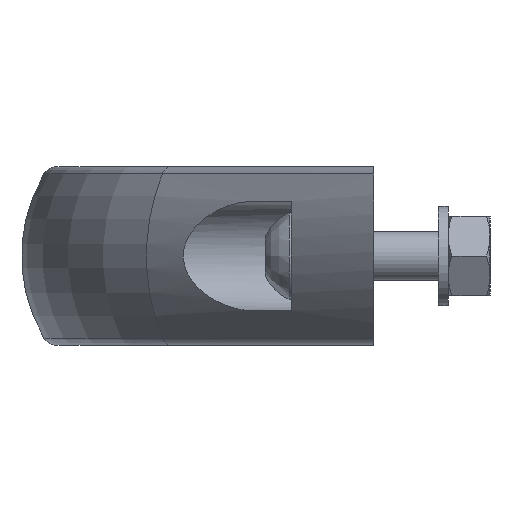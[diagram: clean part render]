
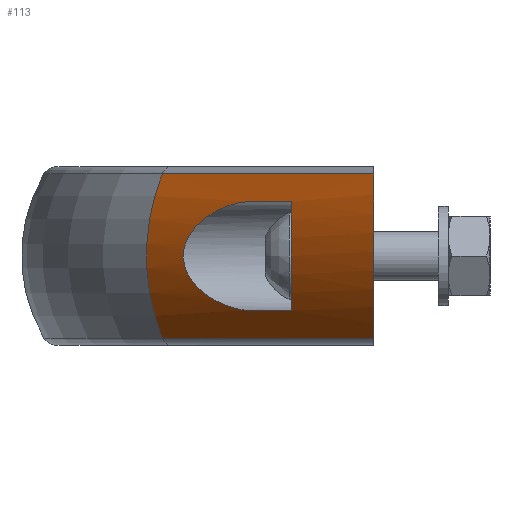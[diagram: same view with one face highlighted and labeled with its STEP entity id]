
A CAD part, left-side view. The second image highlights one B-rep face of the part: STEP entity #113.
In plain terms, the highlighted cylindrical face has radius 32.5 mm (diameter 65 mm), a partial arc.
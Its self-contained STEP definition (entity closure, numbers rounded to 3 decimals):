
#113 = ADVANCED_FACE( '', ( #289, #290 ), #291, .T. );
#289 = FACE_OUTER_BOUND( '', #607, .T. );
#290 = FACE_BOUND( '', #608, .T. );
#291 = CYLINDRICAL_SURFACE( '', #609, 32.5 );
#607 = EDGE_LOOP( '', ( #1100, #1101, #1102, #1103 ) );
#608 = EDGE_LOOP( '', ( #1104, #1105, #1106, #1107 ) );
#609 = AXIS2_PLACEMENT_3D( '', #1108, #1109, #1110 );
#1100 = ORIENTED_EDGE( '', *, *, #1810, .F. );
#1101 = ORIENTED_EDGE( '', *, *, #1811, .T. );
#1102 = ORIENTED_EDGE( '', *, *, #1812, .F. );
#1103 = ORIENTED_EDGE( '', *, *, #1807, .F. );
#1104 = ORIENTED_EDGE( '', *, *, #1813, .F. );
#1105 = ORIENTED_EDGE( '', *, *, #1814, .F. );
#1106 = ORIENTED_EDGE( '', *, *, #1815, .F. );
#1107 = ORIENTED_EDGE( '', *, *, #1816, .F. );
#1108 = CARTESIAN_POINT( '', ( -229.301, -47.88, 0. ) );
#1109 = DIRECTION( '', ( -0.707, -0.707, 0. ) );
#1110 = DIRECTION( '', ( -0.707, 0.707, 0. ) );
#1807 = EDGE_CURVE( '', #2139, #2142, #2143, .T. );
#1810 = EDGE_CURVE( '', #2147, #2139, #2148, .T. );
#1811 = EDGE_CURVE( '', #2147, #2149, #2150, .T. );
#1812 = EDGE_CURVE( '', #2142, #2149, #2151, .T. );
#1813 = EDGE_CURVE( '', #2152, #2153, #2154, .F. );
#1814 = EDGE_CURVE( '', #2155, #2152, #2156, .T. );
#1815 = EDGE_CURVE( '', #2157, #2155, #2158, .T. );
#1816 = EDGE_CURVE( '', #2153, #2157, #2159, .T. );
#2139 = VERTEX_POINT( '', #2860 );
#2142 = VERTEX_POINT( '', #2863 );
#2143 = LINE( '', #2864, #2865 );
#2147 = VERTEX_POINT( '', #2870 );
#2148 = ELLIPSE( '', #2871, 45.962, 32.5 );
#2149 = VERTEX_POINT( '', #2872 );
#2150 = LINE( '', #2873, #2874 );
#2151 = CIRCLE( '', #2875, 32.5 );
#2152 = VERTEX_POINT( '', #2876 );
#2153 = VERTEX_POINT( '', #2877 );
#2154 = LINE( '', #2878, #2879 );
#2155 = VERTEX_POINT( '', #2880 );
#2156 = B_SPLINE_CURVE_WITH_KNOTS( '', 3, ( #2881, #2882, #2883, #2884, #2885, #2886, #2887, #2888, #2889, #2890, #2891, #2892, #2893, #2894, #2895, #2896, #2897, #2898, #2899, #2900, #2901, #2902, #2903, #2904, #2905, #2906, #2907, #2908, #2909, #2910, #2911, #2912, #2913, #2914, #2915, #2916, #2917, #2918, #2919, #2920, #2921, #2922, #2923, #2924, #2925, #2926, #2927, #2928, #2929, #2930, #2931, #2932, #2933, #2934 ), .UNSPECIFIED., .F., .F., ( 4, 2, 2, 2, 2, 2, 2, 2, 2, 2, 2, 2, 2, 2, 2, 2, 2, 2, 2, 2, 2, 2, 2, 2, 2, 2, 4 ), ( 0.017, 0.019, 0.022, 0.025, 0.028, 0.031, 0.032, 0.034, 0.034, 0.035, 0.036, 0.037, 0.038, 0.039, 0.04, 0.041, 0.041, 0.042, 0.043, 0.045, 0.048, 0.05, 0.053, 0.056, 0.057, 0.059, 0.062 ), .UNSPECIFIED. );
#2157 = VERTEX_POINT( '', #2935 );
#2158 = LINE( '', #2936, #2937 );
#2159 = ELLIPSE( '', #2938, 45.962, 32.5 );
#2860 = CARTESIAN_POINT( '', ( -220.997, 0., -16.525 ) );
#2863 = CARTESIAN_POINT( '', ( -178.379, 42.619, -16.525 ) );
#2864 = CARTESIAN_POINT( '', ( -249.089, -28.092, -16.525 ) );
#2865 = VECTOR( '', #3380, 1000. );
#2870 = CARTESIAN_POINT( '', ( -220.997, 0., 16.525 ) );
#2871 = AXIS2_PLACEMENT_3D( '', #3385, #3386, #3387 );
#2872 = CARTESIAN_POINT( '', ( -178.379, 42.619, 16.525 ) );
#2873 = CARTESIAN_POINT( '', ( -249.089, -28.092, 16.525 ) );
#2874 = VECTOR( '', #3388, 1000. );
#2875 = AXIS2_PLACEMENT_3D( '', #3389, #3390, #3391 );
#2876 = CARTESIAN_POINT( '', ( -200., 24.67, -11. ) );
#2877 = CARTESIAN_POINT( '', ( -208.07, 16.6, -11. ) );
#2878 = CARTESIAN_POINT( '', ( -250.926, -26.256, -11. ) );
#2879 = VECTOR( '', #3392, 1000. );
#2880 = CARTESIAN_POINT( '', ( -200., 24.67, 11. ) );
#2881 = CARTESIAN_POINT( '', ( -200., 24.67, 11. ) );
#2882 = CARTESIAN_POINT( '', ( -199.332, 25.337, 11. ) );
#2883 = CARTESIAN_POINT( '', ( -198.687, 26.014, 10.94 ) );
#2884 = CARTESIAN_POINT( '', ( -197.433, 27.38, 10.715 ) );
#2885 = CARTESIAN_POINT( '', ( -196.825, 28.069, 10.551 ) );
#2886 = CARTESIAN_POINT( '', ( -195.641, 29.458, 10.119 ) );
#2887 = CARTESIAN_POINT( '', ( -195.062, 30.161, 9.85 ) );
#2888 = CARTESIAN_POINT( '', ( -193.959, 31.54, 9.215 ) );
#2889 = CARTESIAN_POINT( '', ( -193.433, 32.218, 8.849 ) );
#2890 = CARTESIAN_POINT( '', ( -192.429, 33.54, 8.007 ) );
#2891 = CARTESIAN_POINT( '', ( -191.952, 34.185, 7.532 ) );
#2892 = CARTESIAN_POINT( '', ( -191.278, 35.115, 6.712 ) );
#2893 = CARTESIAN_POINT( '', ( -191.059, 35.42, 6.419 ) );
#2894 = CARTESIAN_POINT( '', ( -190.644, 36.004, 5.796 ) );
#2895 = CARTESIAN_POINT( '', ( -190.447, 36.283, 5.468 ) );
#2896 = CARTESIAN_POINT( '', ( -190.172, 36.675, 4.945 ) );
#2897 = CARTESIAN_POINT( '', ( -190.084, 36.802, 4.766 ) );
#2898 = CARTESIAN_POINT( '', ( -189.914, 37.046, 4.396 ) );
#2899 = CARTESIAN_POINT( '', ( -189.833, 37.164, 4.204 ) );
#2900 = CARTESIAN_POINT( '', ( -189.603, 37.497, 3.618 ) );
#2901 = CARTESIAN_POINT( '', ( -189.47, 37.692, 3.211 ) );
#2902 = CARTESIAN_POINT( '', ( -189.303, 37.937, 2.572 ) );
#2903 = CARTESIAN_POINT( '', ( -189.253, 38.01, 2.354 ) );
#2904 = CARTESIAN_POINT( '', ( -189.164, 38.14, 1.909 ) );
#2905 = CARTESIAN_POINT( '', ( -189.126, 38.196, 1.679 ) );
#2906 = CARTESIAN_POINT( '', ( -189.034, 38.332, 0.981 ) );
#2907 = CARTESIAN_POINT( '', ( -189.002, 38.38, 0.512 ) );
#2908 = CARTESIAN_POINT( '', ( -188.999, 38.383, -0.2 ) );
#2909 = CARTESIAN_POINT( '', ( -189.006, 38.373, -0.439 ) );
#2910 = CARTESIAN_POINT( '', ( -189.035, 38.33, -0.914 ) );
#2911 = CARTESIAN_POINT( '', ( -189.058, 38.297, -1.148 ) );
#2912 = CARTESIAN_POINT( '', ( -189.116, 38.211, -1.61 ) );
#2913 = CARTESIAN_POINT( '', ( -189.152, 38.158, -1.838 ) );
#2914 = CARTESIAN_POINT( '', ( -189.238, 38.031, -2.288 ) );
#2915 = CARTESIAN_POINT( '', ( -189.288, 37.958, -2.51 ) );
#2916 = CARTESIAN_POINT( '', ( -189.455, 37.714, -3.162 ) );
#2917 = CARTESIAN_POINT( '', ( -189.588, 37.519, -3.572 ) );
#2918 = CARTESIAN_POINT( '', ( -189.889, 37.082, -4.353 ) );
#2919 = CARTESIAN_POINT( '', ( -190.058, 36.839, -4.724 ) );
#2920 = CARTESIAN_POINT( '', ( -190.609, 36.051, -5.783 ) );
#2921 = CARTESIAN_POINT( '', ( -191.022, 35.468, -6.396 ) );
#2922 = CARTESIAN_POINT( '', ( -191.919, 34.23, -7.497 ) );
#2923 = CARTESIAN_POINT( '', ( -192.407, 33.57, -7.987 ) );
#2924 = CARTESIAN_POINT( '', ( -193.422, 32.231, -8.841 ) );
#2925 = CARTESIAN_POINT( '', ( -193.951, 31.55, -9.209 ) );
#2926 = CARTESIAN_POINT( '', ( -195.052, 30.173, -9.845 ) );
#2927 = CARTESIAN_POINT( '', ( -195.624, 29.478, -10.112 ) );
#2928 = CARTESIAN_POINT( '', ( -196.52, 28.427, -10.44 ) );
#2929 = CARTESIAN_POINT( '', ( -196.824, 28.076, -10.536 ) );
#2930 = CARTESIAN_POINT( '', ( -197.439, 27.38, -10.702 ) );
#2931 = CARTESIAN_POINT( '', ( -197.749, 27.035, -10.772 ) );
#2932 = CARTESIAN_POINT( '', ( -198.693, 26.007, -10.941 ) );
#2933 = CARTESIAN_POINT( '', ( -199.338, 25.332, -11. ) );
#2934 = CARTESIAN_POINT( '', ( -200., 24.67, -11. ) );
#2935 = CARTESIAN_POINT( '', ( -208.07, 16.6, 11. ) );
#2936 = CARTESIAN_POINT( '', ( -250.926, -26.256, 11. ) );
#2937 = VECTOR( '', #3393, 1000. );
#2938 = AXIS2_PLACEMENT_3D( '', #3394, #3395, #3396 );
#3380 = DIRECTION( '', ( 0.707, 0.707, 0. ) );
#3385 = CARTESIAN_POINT( '', ( -181.42, 0., 0. ) );
#3386 = DIRECTION( '', ( 0., -1., 0. ) );
#3387 = DIRECTION( '', ( 1., 0., 0. ) );
#3388 = DIRECTION( '', ( 0.707, 0.707, 0. ) );
#3389 = CARTESIAN_POINT( '', ( -158.59, 22.83, 0. ) );
#3390 = DIRECTION( '', ( 0.707, 0.707, 0. ) );
#3391 = DIRECTION( '', ( 0., 0., -1. ) );
#3392 = DIRECTION( '', ( 0.707, 0.707, 0. ) );
#3393 = DIRECTION( '', ( 0.707, 0.707, 0. ) );
#3394 = CARTESIAN_POINT( '', ( -164.82, 16.6, 0. ) );
#3395 = DIRECTION( '', ( 0., 1., 0. ) );
#3396 = DIRECTION( '', ( 1., 0., 0. ) );
